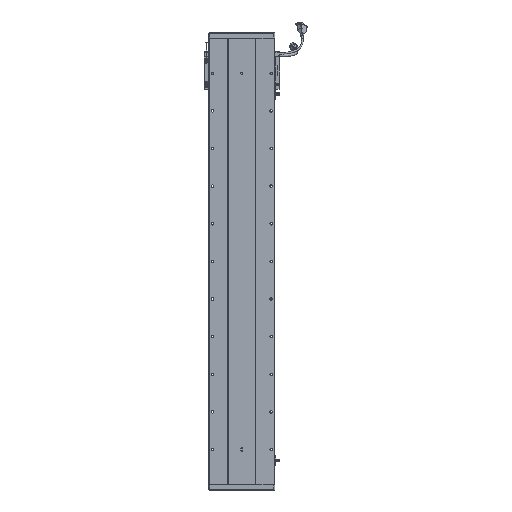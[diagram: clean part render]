
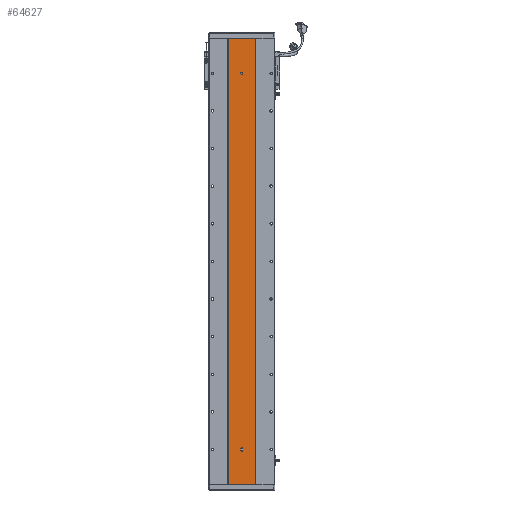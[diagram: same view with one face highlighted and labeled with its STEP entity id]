
A CAD part, front view. The second image highlights one B-rep face of the part: STEP entity #64627.
In plain terms, the highlighted planar face has unit normal (0, -1, 0).
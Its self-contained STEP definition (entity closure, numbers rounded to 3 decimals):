
#889 = CIRCLE ( 'NONE', #65736, 3. ) ;
#982 = ORIENTED_EDGE ( 'NONE', *, *, #21032, .F. ) ;
#1269 = VECTOR ( 'NONE', #83571, 1000. ) ;
#1680 = DIRECTION ( 'NONE',  ( 0., -1., 0. ) ) ;
#2190 = EDGE_CURVE ( 'NONE', #49251, #46293, #5408, .T. ) ;
#2309 = FACE_BOUND ( 'NONE', #76453, .T. ) ;
#3192 = CARTESIAN_POINT ( 'NONE',  ( 3280.529, 1415.701, 92. ) ) ;
#3268 = VECTOR ( 'NONE', #80729, 1000. ) ;
#3926 = CARTESIAN_POINT ( 'NONE',  ( 3280.529, 1415.701, 1090.5 ) ) ;
#4771 = DIRECTION ( 'NONE',  ( 0., 0., -1. ) ) ;
#5408 = LINE ( 'NONE', #24715, #3268 ) ;
#5461 = CARTESIAN_POINT ( 'NONE',  ( 3277.529, 1415.701, 95. ) ) ;
#6166 = VECTOR ( 'NONE', #8957, 1000. ) ;
#6428 = LINE ( 'NONE', #23389, #1269 ) ;
#7269 = CARTESIAN_POINT ( 'NONE',  ( 3283.529, 1415.701, 95. ) ) ;
#7510 = VECTOR ( 'NONE', #22232, 1000. ) ;
#8957 = DIRECTION ( 'NONE',  ( 1., 0., 0. ) ) ;
#10517 = CARTESIAN_POINT ( 'NONE',  ( 3277.529, 1415.701, 95. ) ) ;
#10701 = CARTESIAN_POINT ( 'NONE',  ( 3280.529, 1415.701, 92. ) ) ;
#10766 = EDGE_CURVE ( 'NONE', #81157, #81409, #61959, .T. ) ;
#11461 = AXIS2_PLACEMENT_3D ( 'NONE', #41084, #1680, #28223 ) ;
#13288 = EDGE_CURVE ( 'NONE', #20142, #71988, #889, .T. ) ;
#13603 = LINE ( 'NONE', #10517, #49944 ) ;
#15061 = CARTESIAN_POINT ( 'NONE',  ( 3280.529, 1415.701, 1096.5 ) ) ;
#16034 = DIRECTION ( 'NONE',  ( 0., -1., 0. ) ) ;
#16272 = CARTESIAN_POINT ( 'NONE',  ( 3316.311, 1415.701, 0. ) ) ;
#16986 = DIRECTION ( 'NONE',  ( 0., 0., -1. ) ) ;
#18917 = CARTESIAN_POINT ( 'NONE',  ( 3277.529, 1415.701, 92. ) ) ;
#20142 = VERTEX_POINT ( 'NONE', #18917 ) ;
#20714 = CARTESIAN_POINT ( 'NONE',  ( 3280.529, 1415.701, 1093.5 ) ) ;
#21032 = EDGE_CURVE ( 'NONE', #71988, #49251, #35496, .T. ) ;
#21061 = DIRECTION ( 'NONE',  ( 0., 0., -1. ) ) ;
#21349 = DIRECTION ( 'NONE',  ( 0., -1., 0. ) ) ;
#22226 = LINE ( 'NONE', #45367, #36113 ) ;
#22232 = DIRECTION ( 'NONE',  ( 0., 0., -1. ) ) ;
#22593 = VERTEX_POINT ( 'NONE', #81810 ) ;
#23389 = CARTESIAN_POINT ( 'NONE',  ( 3244.748, 1415.701, 0. ) ) ;
#23579 = DIRECTION ( 'NONE',  ( 0., -1., 0. ) ) ;
#24715 = CARTESIAN_POINT ( 'NONE',  ( 3283.529, 1415.701, 95. ) ) ;
#24722 = EDGE_CURVE ( 'NONE', #87442, #52009, #53008, .T. ) ;
#26328 = ORIENTED_EDGE ( 'NONE', *, *, #24722, .F. ) ;
#27672 = VERTEX_POINT ( 'NONE', #5461 ) ;
#28085 = VERTEX_POINT ( 'NONE', #65035 ) ;
#28223 = DIRECTION ( 'NONE',  ( 0., 0., -1. ) ) ;
#29092 = EDGE_CURVE ( 'NONE', #46293, #27672, #32008, .T. ) ;
#29355 = DIRECTION ( 'NONE',  ( 0., 1., 0. ) ) ;
#30266 = CIRCLE ( 'NONE', #60886, 3. ) ;
#30349 = AXIS2_PLACEMENT_3D ( 'NONE', #70204, #29355, #77046 ) ;
#32008 = CIRCLE ( 'NONE', #11461, 3. ) ;
#35268 = EDGE_CURVE ( 'NONE', #22593, #81409, #6428, .T. ) ;
#35496 = CIRCLE ( 'NONE', #83338, 3. ) ;
#36113 = VECTOR ( 'NONE', #4771, 1000. ) ;
#36517 = FACE_BOUND ( 'NONE', #81443, .T. ) ;
#38482 = AXIS2_PLACEMENT_3D ( 'NONE', #20714, #67520, #60662 ) ;
#40801 = ORIENTED_EDGE ( 'NONE', *, *, #10766, .F. ) ;
#41084 = CARTESIAN_POINT ( 'NONE',  ( 3280.529, 1415.701, 95. ) ) ;
#41478 = ORIENTED_EDGE ( 'NONE', *, *, #2190, .F. ) ;
#42173 = ORIENTED_EDGE ( 'NONE', *, *, #35268, .T. ) ;
#43198 = ORIENTED_EDGE ( 'NONE', *, *, #29092, .F. ) ;
#43598 = CARTESIAN_POINT ( 'NONE',  ( 3244.748, 1415.701, 1187. ) ) ;
#45367 = CARTESIAN_POINT ( 'NONE',  ( 3244.748, 1415.701, 1187. ) ) ;
#46293 = VERTEX_POINT ( 'NONE', #7269 ) ;
#48153 = FACE_OUTER_BOUND ( 'NONE', #84372, .T. ) ;
#48746 = CARTESIAN_POINT ( 'NONE',  ( 3280.529, 1415.701, 1093.5 ) ) ;
#49251 = VERTEX_POINT ( 'NONE', #82267 ) ;
#49932 = PLANE ( 'NONE',  #30349 ) ;
#49944 = VECTOR ( 'NONE', #66469, 1000. ) ;
#50167 = CARTESIAN_POINT ( 'NONE',  ( 3280.529, 1415.701, 89. ) ) ;
#52009 = VERTEX_POINT ( 'NONE', #15061 ) ;
#53008 = CIRCLE ( 'NONE', #38482, 3. ) ;
#57948 = ORIENTED_EDGE ( 'NONE', *, *, #78580, .F. ) ;
#60662 = DIRECTION ( 'NONE',  ( 0., 0., -1. ) ) ;
#60886 = AXIS2_PLACEMENT_3D ( 'NONE', #48746, #21349, #21061 ) ;
#61959 = LINE ( 'NONE', #63027, #7510 ) ;
#63027 = CARTESIAN_POINT ( 'NONE',  ( 3316.311, 1415.701, 1187. ) ) ;
#63569 = EDGE_CURVE ( 'NONE', #28085, #81157, #78771, .T. ) ;
#63645 = EDGE_CURVE ( 'NONE', #28085, #22593, #22226, .T. ) ;
#64627 = ADVANCED_FACE ( 'NONE', ( #36517, #2309, #48153 ), #49932, .F. ) ;
#64997 = ORIENTED_EDGE ( 'NONE', *, *, #69403, .F. ) ;
#65035 = CARTESIAN_POINT ( 'NONE',  ( 3244.748, 1415.701, 1187. ) ) ;
#65736 = AXIS2_PLACEMENT_3D ( 'NONE', #10701, #23579, #16986 ) ;
#66469 = DIRECTION ( 'NONE',  ( 0., 0., -1. ) ) ;
#67520 = DIRECTION ( 'NONE',  ( 0., -1., 0. ) ) ;
#69403 = EDGE_CURVE ( 'NONE', #52009, #87442, #30266, .T. ) ;
#70204 = CARTESIAN_POINT ( 'NONE',  ( 3244.748, 1415.701, 1187. ) ) ;
#71988 = VERTEX_POINT ( 'NONE', #50167 ) ;
#74194 = ORIENTED_EDGE ( 'NONE', *, *, #13288, .F. ) ;
#75888 = CARTESIAN_POINT ( 'NONE',  ( 3316.311, 1415.701, 1187. ) ) ;
#76453 = EDGE_LOOP ( 'NONE', ( #26328, #64997 ) ) ;
#77046 = DIRECTION ( 'NONE',  ( 0., 0., 1. ) ) ;
#77153 = DIRECTION ( 'NONE',  ( 0., 0., -1. ) ) ;
#78580 = EDGE_CURVE ( 'NONE', #27672, #20142, #13603, .T. ) ;
#78771 = LINE ( 'NONE', #43598, #6166 ) ;
#79929 = ORIENTED_EDGE ( 'NONE', *, *, #63645, .T. ) ;
#80729 = DIRECTION ( 'NONE',  ( 0., 0., 1. ) ) ;
#81157 = VERTEX_POINT ( 'NONE', #75888 ) ;
#81409 = VERTEX_POINT ( 'NONE', #16272 ) ;
#81443 = EDGE_LOOP ( 'NONE', ( #74194, #57948, #43198, #41478, #982 ) ) ;
#81810 = CARTESIAN_POINT ( 'NONE',  ( 3244.748, 1415.701, 0. ) ) ;
#82267 = CARTESIAN_POINT ( 'NONE',  ( 3283.529, 1415.701, 92. ) ) ;
#83338 = AXIS2_PLACEMENT_3D ( 'NONE', #3192, #16034, #77153 ) ;
#83571 = DIRECTION ( 'NONE',  ( 1., 0., 0. ) ) ;
#84372 = EDGE_LOOP ( 'NONE', ( #42173, #40801, #85081, #79929 ) ) ;
#85081 = ORIENTED_EDGE ( 'NONE', *, *, #63569, .F. ) ;
#87442 = VERTEX_POINT ( 'NONE', #3926 ) ;
